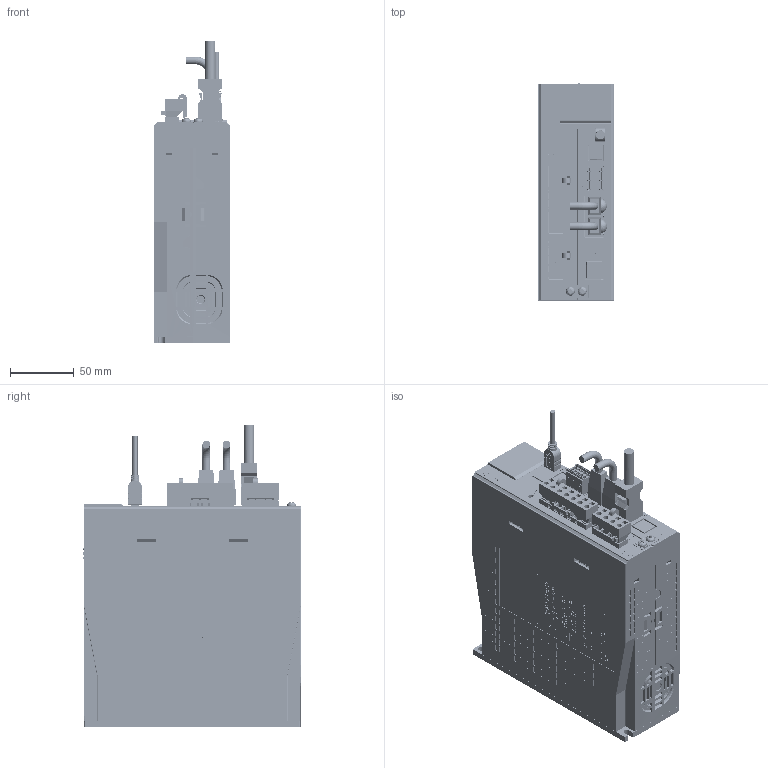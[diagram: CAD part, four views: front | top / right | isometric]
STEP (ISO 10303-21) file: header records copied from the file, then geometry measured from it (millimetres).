
FILE_DESCRIPTION(('CATIA V5 STEP Exchange'),'2;1');
FILE_NAME('E:\project\伺服\【1】模型审核\240619\DS5C2&C5系列\DS5C2-21P0-PTA.stp','2024-06-24T03:05:17+00:00',('none'),('none'),'CATIA Version 5-6 Release 2016','CATIA V5 STEP AP203','none');
FILE_SCHEMA(('CONFIG_CONTROL_DESIGN'));
Products named in the file (2): DS5C2-21P0-PTA-官网图+EPLAN图-240604_stp; QIJIAN227227227240
Assembly tree (14 placements, depth 3):
  DS5C2-21P0-PTA-官网图+EPLAN图-240604_stp
    #57
    #467813
    #561416
    #562294
    QIJIAN227227227240
      #564580
      #572278
      #581550
      #583321
      #588256
      #676425
      #684100
    #745395
    #775701
Bounding box: 60 x 169.9 x 236.45 mm (x, y, z)
Surface area: 401270.1 mm2
Topology: 902 solids, 918 shells, 22196 faces, 62954 edges, 42930 vertices
Faces by surface type: plane 16085, cylinder 3087, bspline 2437, sphere 282, cone 157, torus 129, extrusion 19
Entity records: 789506 total; most frequent: CARTESIAN_POINT 248661, ORIENTED_EDGE 125477, DIRECTION 86509, EDGE_CURVE 62751, VECTOR 43411, LINE 43392, VERTEX_POINT 42930, EDGE_LOOP 23664
